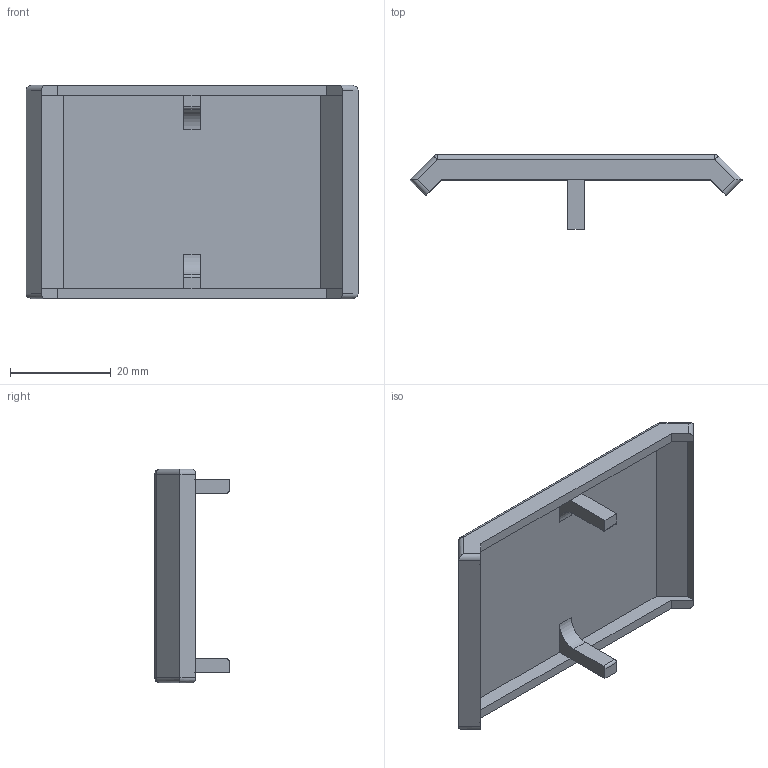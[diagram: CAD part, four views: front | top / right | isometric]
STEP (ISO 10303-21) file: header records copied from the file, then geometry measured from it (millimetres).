
FILE_DESCRIPTION (( 'STEP AP214' ), '1' );
FILE_NAME ('SNSD.30.50.48. Çàãëóøêà äëÿ óãëîâîãî àëþìèíèåâîãî ñîåäèíèòåëÿ 45õ45(D03).STEP', '2014-11-20T11:29:00', ( 'XTreme.ws' ), ( 'XTreme.ws' ), 'SwSTEP 2.0', 'SolidWorks 2014', '' );
FILE_SCHEMA (( 'AUTOMOTIVE_DESIGN' ));
Length unit declared in the file: millimetre
Products named in the file (1): SNSD.30.50.48. Çàãëóøêà äëÿ óãëîâîãî àëþìèíèåâîãî ñîåäèíèòåëÿ 45õ45(D03)
Bounding box: 66 x 14.8 x 42.5 mm (x, y, z)
Volume: 7472 mm3; surface area: 7367.4 mm2
Topology: 1 solids, 1 shells, 52 faces, 130 edges, 76 vertices
Faces by surface type: plane 32, cylinder 16, sphere 4
Entity records: 1516 total; most frequent: CARTESIAN_POINT 267, ORIENTED_EDGE 252, DIRECTION 252, EDGE_CURVE 126, LINE 98, VECTOR 98, AXIS2_PLACEMENT_3D 77, VERTEX_POINT 76
